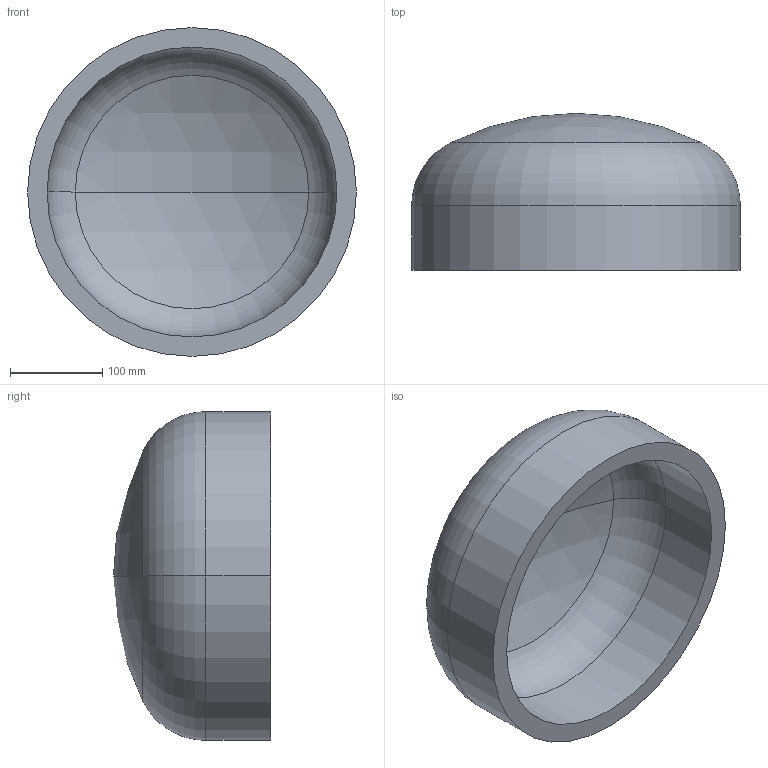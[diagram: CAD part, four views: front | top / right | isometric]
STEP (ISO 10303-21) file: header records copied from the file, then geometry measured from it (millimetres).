
FILE_DESCRIPTION (( 'STEP AP203' ), '1' );
FILE_NAME ('DIN 28013 Korbbogenform_-_Boden DIN 28013 - 355,6 x 70 - I - s=21.step', '2016-07-01T07:46:56', ( '' ), ( '' ), 'SwSTEP 2.0', 'SolidWorks 2013', '' );
FILE_SCHEMA (( 'CONFIG_CONTROL_DESIGN' ));
Length unit declared in the file: millimetre
Products named in the file (1): DIN 28013 Korbbogenform_-_Boden DIN 28013 - 355,6 x 70 - I - s=21
Bounding box: 355.6 x 169.87 x 355.6 mm (x, y, z)
Volume: 4226779.3 mm3; surface area: 425548.7 mm2
Topology: 1 solids, 1 shells, 13 faces, 24 edges, 14 vertices
Faces by surface type: torus 4, cylinder 4, sphere 4, plane 1
Entity records: 407 total; most frequent: DIRECTION 72, CARTESIAN_POINT 52, ORIENTED_EDGE 48, AXIS2_PLACEMENT_3D 34, EDGE_CURVE 24, CIRCLE 20, EDGE_LOOP 14, VERTEX_POINT 14
